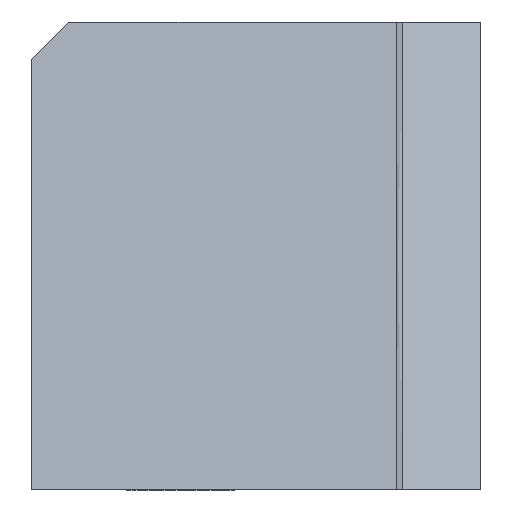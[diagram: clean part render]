
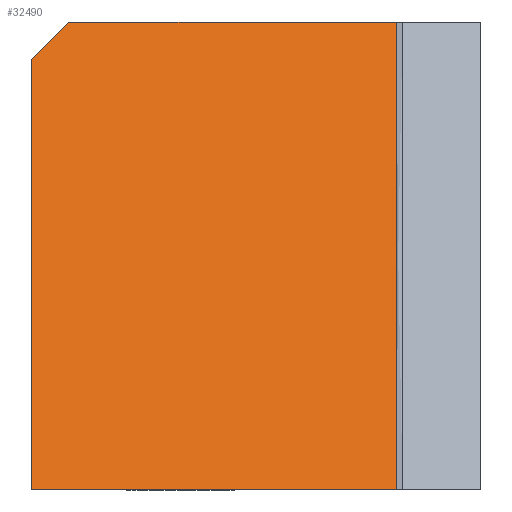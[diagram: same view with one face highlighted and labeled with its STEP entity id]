
A CAD part, left-side view. The second image highlights one B-rep face of the part: STEP entity #32490.
In plain terms, the highlighted planar face has unit normal (-0.943, 0, 0.334).
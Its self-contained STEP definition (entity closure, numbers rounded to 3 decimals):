
#3302=ORIENTED_EDGE('',*,*,#10470,.F.);
#3303=ORIENTED_EDGE('',*,*,#10471,.T.);
#3304=ORIENTED_EDGE('',*,*,#8528,.F.);
#3305=ORIENTED_EDGE('',*,*,#10472,.F.);
#3306=ORIENTED_EDGE('',*,*,#9567,.F.);
#8528=EDGE_CURVE('',#12112,#12113,#14477,.T.);
#9567=EDGE_CURVE('',#13150,#13152,#15175,.T.);
#10470=EDGE_CURVE('',#14054,#13150,#15778,.T.);
#10471=EDGE_CURVE('',#14054,#12113,#15779,.T.);
#10472=EDGE_CURVE('',#13152,#12112,#15780,.T.);
#12112=VERTEX_POINT('',#41087);
#12113=VERTEX_POINT('',#41088);
#13150=VERTEX_POINT('',#44595);
#13152=VERTEX_POINT('',#44598);
#14054=VERTEX_POINT('',#46404);
#14477=LINE('',#41086,#17263);
#15175=LINE('',#44597,#17961);
#15778=LINE('',#46403,#18564);
#15779=LINE('',#46405,#18565);
#15780=LINE('',#46406,#18566);
#17263=VECTOR('',#35124,1000.);
#17961=VECTOR('',#35844,1000.);
#18564=VECTOR('',#37049,1000.);
#18565=VECTOR('',#37050,1000.);
#18566=VECTOR('',#37051,1000.);
#20013=EDGE_LOOP('',(#3302,#3303,#3304,#3305,#3306));
#21397=FACE_BOUND('',#20013,.T.);
#22719=PLANE('',#34088);
#32490=ADVANCED_FACE('',(#21397),#22719,.T.);
#34088=AXIS2_PLACEMENT_3D('',#46402,#37047,#37048);
#35124=DIRECTION('',(0.,1.,0.));
#35844=DIRECTION('',(0.,-1.,0.));
#37047=DIRECTION('',(-0.942,0.,0.334));
#37048=DIRECTION('',(0.,1.,0.));
#37049=DIRECTION('',(0.243,-0.686,0.686));
#37050=DIRECTION('',(-0.334,0.,-0.942));
#37051=DIRECTION('',(-0.334,0.,-0.942));
#41086=CARTESIAN_POINT('',(-8.867,-19.5,-25.));
#41087=CARTESIAN_POINT('',(-8.867,-19.5,-25.));
#41088=CARTESIAN_POINT('',(-8.867,0.,-25.));
#44595=CARTESIAN_POINT('',(0.,-2.,0.));
#44597=CARTESIAN_POINT('',(0.,0.,0.));
#44598=CARTESIAN_POINT('',(0.,-19.5,0.));
#46402=CARTESIAN_POINT('',(0.,-19.5,0.));
#46403=CARTESIAN_POINT('',(1.342,-5.785,3.785));
#46404=CARTESIAN_POINT('',(-0.709,0.,-2.));
#46405=CARTESIAN_POINT('',(0.,0.,0.));
#46406=CARTESIAN_POINT('',(0.,-19.5,0.));
